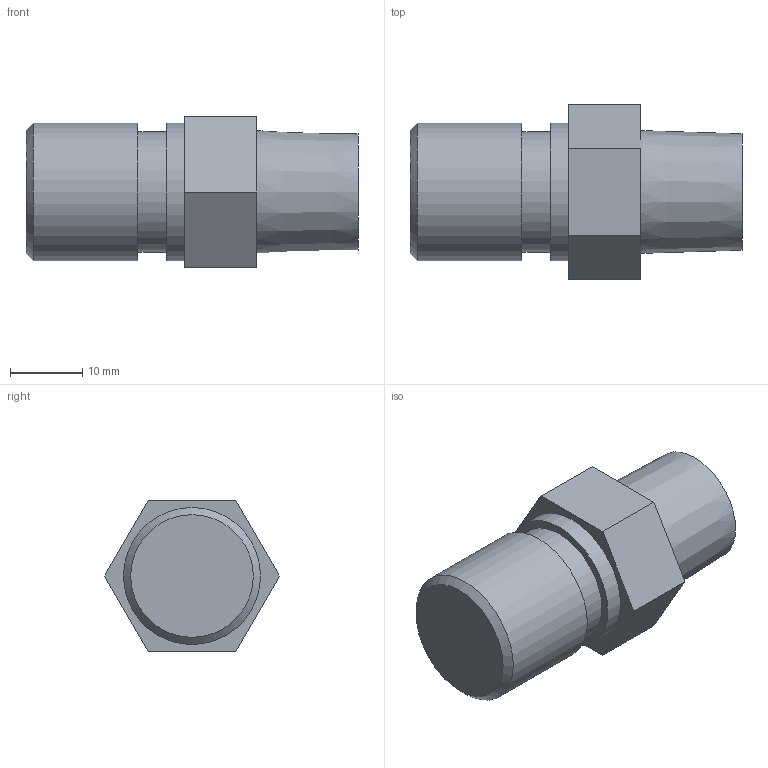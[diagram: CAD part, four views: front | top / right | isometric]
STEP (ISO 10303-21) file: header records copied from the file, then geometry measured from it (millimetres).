
FILE_DESCRIPTION((''),'2;1');
FILE_NAME('\\Sv02\Data\客先\あ行\アオイ\99_その他\3D_DATA\CPR_Series\12CPR-SPV-R-C\STEP\203\CPR-SPV-R3-8-C.ipt.stp','2008-07-04T13:55:49',(''),(''),'Autodesk Inventor 2009','Autodesk Inventor 2009','');
FILE_SCHEMA(('CONFIG_CONTROL_DESIGN'));
Length unit declared in the file: millimetre
Products named in the file (1): CPR-SPV-R3-8-C
Bounding box: 46 x 24.25 x 21 mm (x, y, z)
Volume: 12787 mm3; surface area: 3574.3 mm2
Topology: 1 solids, 1 shells, 17 faces, 32 edges, 21 vertices
Faces by surface type: plane 12, cylinder 3, cone 2
Full cylindrical faces by diameter (mm): 16.7 x1, 19 x2
Entity records: 419 total; most frequent: DIRECTION 72, CARTESIAN_POINT 66, ORIENTED_EDGE 54, AXIS2_PLACEMENT_3D 27, EDGE_CURVE 27, EDGE_LOOP 26, VERTEX_POINT 21, VECTOR 18
